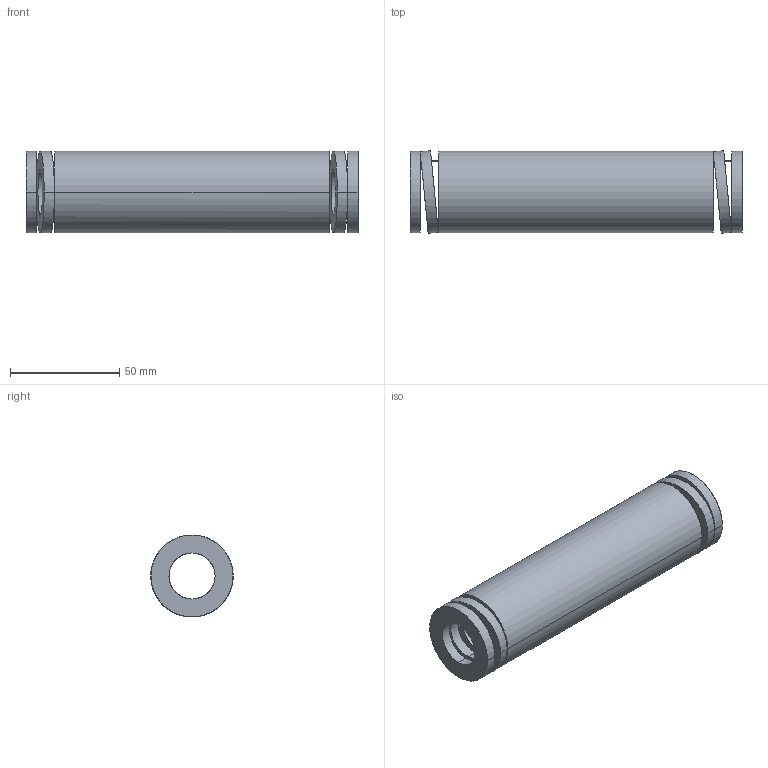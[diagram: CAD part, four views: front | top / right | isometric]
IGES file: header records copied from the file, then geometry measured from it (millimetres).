
Start section: START RECORD GO HERE.
Global section: file name: 392-B40-152.igs; native system: DASSAULT SYSTEMES CATIA V5 R20 - www.3ds.com; preprocessor: CATIA Version 5 Release 20 ; author: Utente; organization: NB04-ASUS; date: 20210813.131500; units: millimetre
Bounding box: 152 x 37.78 x 37.5 mm (x, y, z)
Surface area: 34173.6 mm2 (no closed solid volume)
Topology: 0 solids, 0 shells, 38 faces, 184 edges, 184 vertices
Faces by surface type: revolution 28, plane 10
